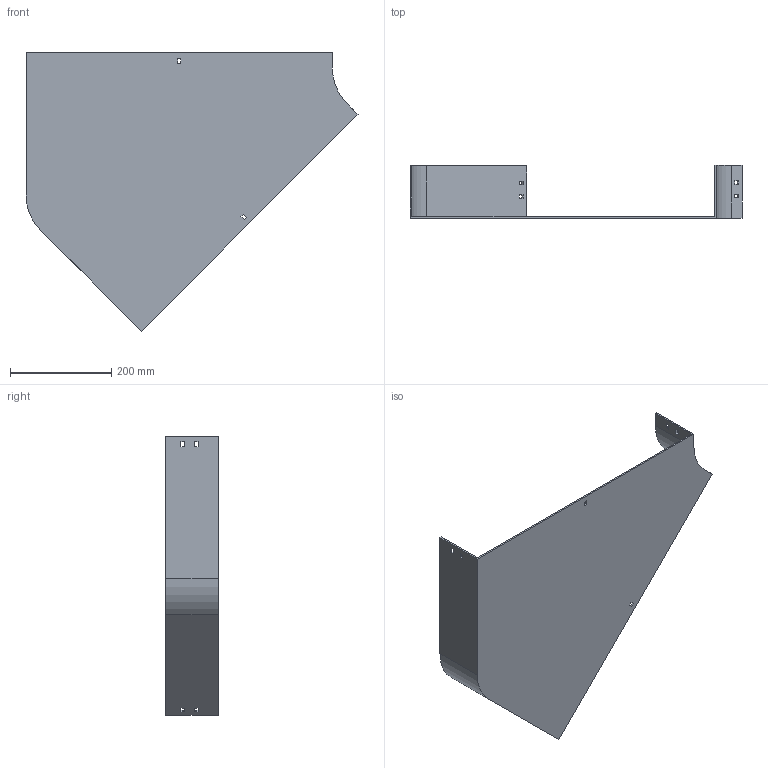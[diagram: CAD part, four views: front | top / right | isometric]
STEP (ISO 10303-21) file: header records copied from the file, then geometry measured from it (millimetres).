
FILE_DESCRIPTION (( 'STEP AP214' ), '1' );
FILE_NAME ('11F1D600.step', '2025-02-21T12:55:16', ( '' ), ( '' ), 'SwSTEP 2.0', 'SolidWorks 2023', '' );
FILE_SCHEMA (( 'AUTOMOTIVE_DESIGN' ));
Length unit declared in the file: millimetre
Products named in the file (1): 11F1D600
Bounding box: 654.5 x 104 x 549.02 mm (x, y, z)
Volume: 1101959 mm3; surface area: 639215.9 mm2
Topology: 1 solids, 1 shells, 58 faces, 168 edges, 112 vertices
Faces by surface type: plane 54, cylinder 4
Entity records: 1943 total; most frequent: CARTESIAN_POINT 339, ORIENTED_EDGE 336, DIRECTION 294, EDGE_CURVE 168, LINE 160, VECTOR 160, VERTEX_POINT 112, EDGE_LOOP 78
